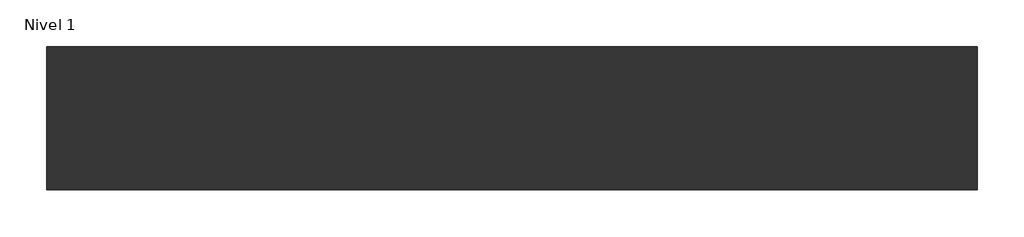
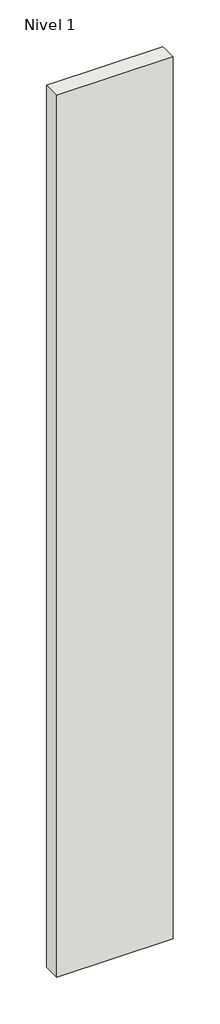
# One storey: 1 wall.
"""IFC4 building model written with IfcOpenShell, lengths in millimetres."""

from ifc_helpers import new_model, si_unit, origin, origin_with_axes, place, context, project, spatial, polyline, outline, extrude, element, save

model = new_model("IFC4")

# Units and contexts
model_context = context("Model", 3, world=origin())
ifc_project = project(units=[si_unit("LENGTHUNIT", "METRE", prefix="MILLI")], contexts=[model_context])

# Site, building, storey
site = spatial("IfcSite", under=ifc_project)
building = spatial("IfcBuilding", under=site)
storey = spatial("IfcBuildingStorey", under=building, Name="Nivel 1", Elevation=0.0)

# Wall
placement = place(None, origin())
element("IfcWall", 1, ObjectType="Trasdosado semidirecto altas prestaciones - Sistema D09", at=placement, inside=storey, context=model_context, shape_type="SweptSolid", body=[
    extrude(outline(polyline([(-3436.220018, -2891.1024758), (-4436.220018, -2891.1024758), (-4436.220018, -2737.1024758), (-3436.220018, -2737.1024758), (-3436.220018, -2891.1024758)])), origin_with_axes(), (0.0, 0.0, 1.0), 8000.0),
])

save(model, "model.ifc")
